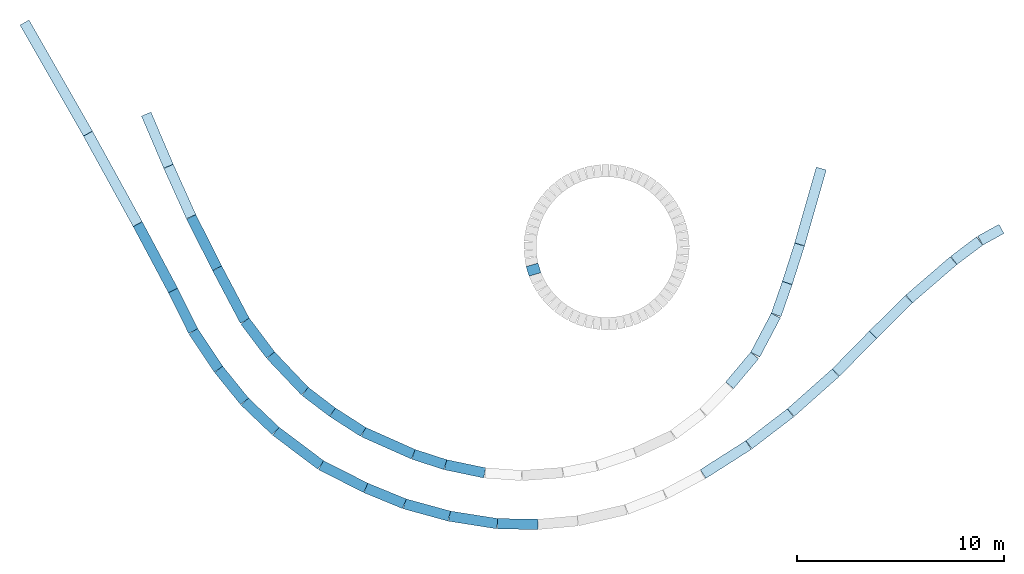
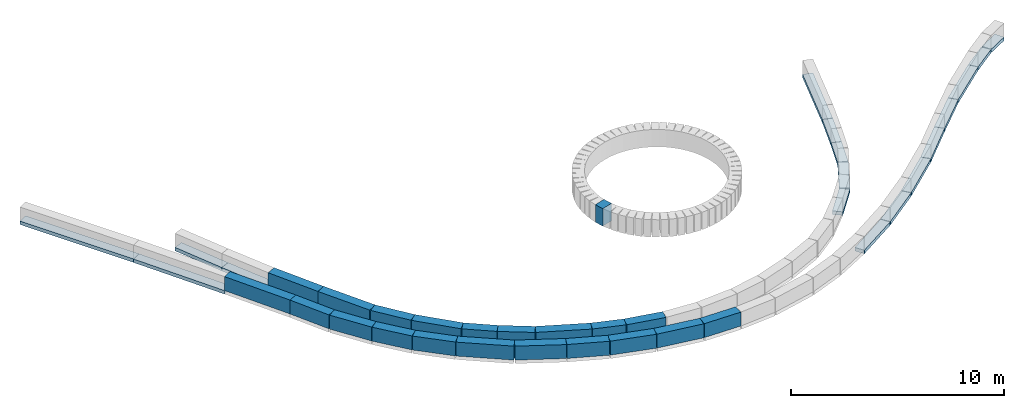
# One storey, part 2 of 3: 20 walls, 17 footings, 1 beam.
"""IFC2X3 building model written with IfcOpenShell, lengths in millimetres."""

from ifc_helpers import new_model, entity, si_unit, converted_unit, direction, origin, origin_with_axes, place, context, project, spatial, faceted_brep, element, save


model = new_model("IFC2X3")

# Units and contexts
model_context = context("Model", 3, precision=1e-05, world=origin(), true_north=direction((0.0, 1.0, 0.0)))
ifc_project = project(units=[si_unit("LENGTHUNIT", "METRE", prefix="MILLI"), si_unit("AREAUNIT", "SQUARE_METRE"), si_unit("VOLUMEUNIT", "CUBIC_METRE"), converted_unit("PLANEANGLEUNIT", "DEGREE", entity("IfcPlaneAngleMeasure", 0.01745), si_unit("PLANEANGLEUNIT", "RADIAN"), dimensions=[0, 0, 0, 0, 0, 0, 0]), si_unit("SOLIDANGLEUNIT", "STERADIAN"), si_unit("MASSUNIT", "GRAM"), si_unit("TIMEUNIT", "SECOND"), si_unit("THERMODYNAMICTEMPERATUREUNIT", "DEGREE_CELSIUS"), si_unit("LUMINOUSINTENSITYUNIT", "LUMEN")], contexts=[model_context])

# Site, building, storey
site_placement = place(None, origin_with_axes())
site = spatial("IfcSite", under=ifc_project, at=site_placement, Name="Default Site", CompositionType="ELEMENT")
building_placement = place(site_placement, origin_with_axes())
building = spatial("IfcBuilding", under=site, at=building_placement, Name="Default Building", CompositionType="ELEMENT")
storey_placement = place(building_placement, origin_with_axes())
storey = spatial("IfcBuildingStorey", under=building, at=storey_placement, Name="Fundação", CompositionType="ELEMENT", Elevation=0.0)

# Footings
footing_1_placement = place(storey_placement, origin_with_axes())
element("IfcFooting", 1, at=footing_1_placement, inside=storey, Name="IfcFooting - IfcFooting - Viga 23 (50x30)", context=model_context, shape_type="Brep", body=[
    faceted_brep([(-13324.97586549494, 5962.893249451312, -2350.000011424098), (-13324.97586549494, 5962.893249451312, -2150.000008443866), (-12248.72605742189, 3439.652087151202, -2150.000008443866), (-12248.72605742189, 3439.652087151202, -2350.000011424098), (-13784.88688410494, 5766.725184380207, -2150.000008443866), (-12708.6370760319, 3243.484022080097, -2150.000008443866), (-13784.88688410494, 5766.725184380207, -2350.000011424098), (-12708.6370760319, 3243.484022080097, -2350.000011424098)], [[[0, 1, 2]], [[0, 2, 3]], [[1, 4, 5]], [[1, 5, 2]], [[4, 6, 7]], [[4, 7, 5]], [[6, 0, 3]], [[6, 3, 7]], [[2, 5, 7]], [[2, 7, 3]], [[0, 6, 4]], [[0, 4, 1]]]),
])
footing_2_placement = place(storey_placement, origin_with_axes())
element("IfcFooting", 2, at=footing_2_placement, inside=storey, Name="IfcFooting - IfcFooting - Viga 42 (50x30)", context=model_context, shape_type="Brep", body=[
    faceted_brep([(17099.28588696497, -3993.023543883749, -2350.000011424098), (17099.28588696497, -3993.023543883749, -2150.000008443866), (16104.28883262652, -5876.832275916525, -2150.000008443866), (16104.28883262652, -5876.832275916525, -2350.000011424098), (16657.16762968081, -3759.503870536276, -2150.000008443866), (15662.17057534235, -5643.312602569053, -2150.000008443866), (16657.16762968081, -3759.503870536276, -2350.000011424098), (15662.17057534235, -5643.312602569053, -2350.000011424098)], [[[0, 1, 2]], [[0, 2, 3]], [[1, 4, 5]], [[1, 5, 2]], [[4, 6, 7]], [[4, 7, 5]], [[6, 0, 3]], [[6, 3, 7]], [[2, 5, 7]], [[2, 7, 3]], [[0, 6, 4]], [[0, 4, 1]]]),
])
footing_3_placement = place(storey_placement, origin_with_axes())
element("IfcFooting", 3, at=footing_3_placement, inside=storey, Name="IfcFooting - IfcFooting - Viga 43 (50x30)", context=model_context, shape_type="Brep", body=[
    faceted_brep([(17665.5232387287, -2385.671040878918, -2350.000011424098), (17665.5232387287, -2385.671040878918, -2150.000008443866), (17129.30943469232, -3924.070379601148, -2150.000008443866), (17129.30943469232, -3924.070379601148, -2350.000011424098), (17193.38142524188, -2221.104524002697, -2150.000008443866), (16657.1676212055, -3759.503862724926, -2150.000008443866), (17193.38142524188, -2221.104524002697, -2350.000011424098), (16657.1676212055, -3759.503862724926, -2350.000011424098)], [[[0, 1, 2]], [[0, 2, 3]], [[1, 4, 5]], [[1, 5, 2]], [[4, 6, 7]], [[4, 7, 5]], [[6, 0, 3]], [[6, 3, 7]], [[2, 5, 7]], [[2, 7, 3]], [[0, 6, 4]], [[0, 4, 1]]]),
])
footing_4_placement = place(storey_placement, origin_with_axes())
element("IfcFooting", 4, at=footing_4_placement, inside=storey, Name="IfcFooting - IfcFooting - Viga 24 (50x30)", context=model_context, shape_type="Brep", body=[
    faceted_brep([(-12248.72607851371, 3439.651990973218, -2350.000011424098), (-12248.72607851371, 3439.651990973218, -2150.000008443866), (-11156.33002782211, 1008.447314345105, -2150.000008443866), (-11156.33002782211, 1008.447314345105, -2350.000011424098), (-12704.8023130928, 3234.726573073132, -2150.000008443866), (-11612.4062624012, 803.5218964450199, -2150.000008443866), (-12704.8023130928, 3234.726573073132, -2350.000011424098), (-11612.4062624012, 803.5218964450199, -2350.000011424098)], [[[0, 1, 2]], [[0, 2, 3]], [[1, 4, 5]], [[1, 5, 2]], [[4, 6, 7]], [[4, 7, 5]], [[6, 0, 3]], [[6, 3, 7]], [[2, 5, 7]], [[2, 7, 3]], [[0, 6, 4]], [[0, 4, 1]]]),
])
footing_5_placement = place(storey_placement, origin_with_axes())
element("IfcFooting", 5, at=footing_5_placement, inside=storey, Name="IfcFooting - IfcFooting - Viga 44 (50x30)", context=model_context, shape_type="Brep", body=[
    faceted_brep([(18264.73520682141, -518.285660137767, -2350.000011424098), (18264.73520682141, -518.285660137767, -2150.000008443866), (17669.48346779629, -2373.83583008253, -2150.000008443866), (17669.48346779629, -2373.83583008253, -2350.000011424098), (17788.6331527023, -365.5543607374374, -2150.000008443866), (17193.38141367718, -2221.104530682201, -2150.000008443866), (17788.6331527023, -365.5543607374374, -2350.000011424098), (17193.38141367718, -2221.104530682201, -2350.000011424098)], [[[0, 1, 2]], [[0, 2, 3]], [[1, 4, 5]], [[1, 5, 2]], [[4, 6, 7]], [[4, 7, 5]], [[6, 0, 3]], [[6, 3, 7]], [[2, 5, 7]], [[2, 7, 3]], [[0, 6, 4]], [[0, 4, 1]]]),
])
footing_6_placement = place(storey_placement, origin_with_axes())
element("IfcFooting", 6, at=footing_6_placement, inside=storey, Name="IfcFooting - IfcFooting - Viga 41 (50x30)", context=model_context, shape_type="Brep", body=[
    faceted_brep([(16045.12085768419, -5964.792076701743, -2350.000011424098), (16045.12085768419, -5964.792076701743, -2150.000008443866), (14834.55195280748, -7406.836752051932, -2150.000008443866), (14834.55195280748, -7406.836752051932, -2350.000011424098), (15662.17055174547, -5643.312577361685, -2150.000008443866), (14451.60164686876, -7085.357252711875, -2150.000008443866), (15662.17055174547, -5643.312577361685, -2350.000011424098), (14451.60164686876, -7085.357252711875, -2350.000011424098)], [[[0, 1, 2]], [[0, 2, 3]], [[1, 4, 5]], [[1, 5, 2]], [[4, 6, 7]], [[4, 7, 5]], [[6, 0, 3]], [[6, 3, 7]], [[2, 5, 7]], [[2, 7, 3]], [[0, 6, 4]], [[0, 4, 1]]]),
])
footing_7_placement = place(storey_placement, origin_with_axes())
element("IfcFooting", 7, at=footing_7_placement, inside=storey, Name="IfcFooting - IfcFooting - Viga 45 (50x30)", context=model_context, shape_type="Brep", body=[
    faceted_brep([(19316.52881210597, 3164.051236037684, -2350.000011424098), (19316.52881210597, 3164.051236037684, -2150.000008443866), (18269.41488688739, -502.845703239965, -2150.000008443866), (18269.41488688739, -502.845703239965, -2350.000011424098), (18835.74704831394, 3301.342548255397, -2150.000008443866), (17788.63312309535, -365.5543910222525, -2150.000008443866), (18835.74704831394, 3301.342548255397, -2350.000011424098), (17788.63312309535, -365.5543910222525, -2350.000011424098)], [[[0, 1, 2]], [[0, 2, 3]], [[1, 4, 5]], [[1, 5, 2]], [[4, 6, 7]], [[4, 7, 5]], [[6, 0, 3]], [[6, 3, 7]], [[2, 5, 7]], [[2, 7, 3]], [[0, 6, 4]], [[0, 4, 1]]]),
])
footing_8_placement = place(storey_placement, origin_with_axes())
element("IfcFooting", 8, at=footing_8_placement, inside=storey, Name="IfcFooting - IfcFooting - Viga 87 (50x30)", context=model_context, shape_type="Brep", body=[
    faceted_brep([(15695.0404678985, -10342.18912879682, -1449.99999884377), (15695.0404678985, -10342.18912879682, -1249.999995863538), (13494.95268217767, -11745.31647125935, -1249.999995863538), (13494.95268217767, -11745.31647125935, -1449.99999884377), (15426.18394247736, -9920.625175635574, -1249.999995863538), (13226.09615675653, -11323.75251809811, -1249.999995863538), (15426.18394247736, -9920.625175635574, -1449.99999884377), (13226.09615675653, -11323.75251809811, -1449.99999884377)], [[[0, 1, 2]], [[0, 2, 3]], [[1, 4, 5]], [[1, 5, 2]], [[4, 6, 7]], [[4, 7, 5]], [[6, 0, 3]], [[6, 3, 7]], [[2, 5, 7]], [[2, 7, 3]], [[0, 6, 4]], [[0, 4, 1]]]),
])
footing_9_placement = place(storey_placement, origin_with_axes())
element("IfcFooting", 9, at=footing_9_placement, inside=storey, Name="IfcFooting - IfcFooting - Viga 94 (50x30)", context=model_context, shape_type="Brep", body=[
    faceted_brep([(27906.57746489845, 95.52944373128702, -1449.99999884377), (27906.57746489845, 95.52944373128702, -1249.999995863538), (26879.4081776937, -469.1190727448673, -1249.999995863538), (26879.4081776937, -469.1190727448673, -1449.99999884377), (27665.71455891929, 533.6904517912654, -1249.999995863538), (26638.54527171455, -30.95806468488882, -1249.999995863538), (27665.71455891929, 533.6904517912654, -1449.99999884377), (26638.54527171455, -30.95806468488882, -1449.99999884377)], [[[0, 1, 2]], [[0, 2, 3]], [[1, 4, 5]], [[1, 5, 2]], [[4, 6, 7]], [[4, 7, 5]], [[6, 0, 3]], [[6, 3, 7]], [[2, 5, 7]], [[2, 7, 3]], [[0, 6, 4]], [[0, 4, 1]]]),
])
footing_10_placement = place(storey_placement, origin_with_axes())
element("IfcFooting", 10, at=footing_10_placement, inside=storey, Name="IfcFooting - IfcFooting - Viga 91 (50x30)", context=model_context, shape_type="Brep", body=[
    faceted_brep([(23484.82242084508, -3260.998741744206, -1449.99999884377), (23484.82242084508, -3260.998741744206, -1249.999995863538), (21750.70050216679, -4978.207246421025, -1249.999995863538), (21750.70050216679, -4978.207246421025, -1449.99999884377), (23133.00588584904, -2905.717031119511, -1249.999995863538), (21398.88396717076, -4622.92553579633, -1249.999995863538), (23133.00588584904, -2905.717031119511, -1449.99999884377), (21398.88396717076, -4622.92553579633, -1449.99999884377)], [[[0, 1, 2]], [[0, 2, 3]], [[1, 4, 5]], [[1, 5, 2]], [[4, 6, 7]], [[4, 7, 5]], [[6, 0, 3]], [[6, 3, 7]], [[2, 5, 7]], [[2, 7, 3]], [[0, 6, 4]], [[0, 4, 1]]]),
])
footing_11_placement = place(storey_placement, origin_with_axes())
element("IfcFooting", 11, at=footing_11_placement, inside=storey, Name="IfcFooting - IfcFooting - Viga 92 (50x30)", context=model_context, shape_type="Brep", body=[
    faceted_brep([(25631.49879965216, -1409.217279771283, -1449.99999884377), (25631.49879965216, -1409.217279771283, -1249.999995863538), (23484.82243809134, -3260.998767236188, -1249.999995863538), (23484.82243809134, -3260.998767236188, -1449.99999884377), (25304.90784439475, -1030.616801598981, -1249.999995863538), (23158.23148283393, -2882.398289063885, -1249.999995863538), (25304.90784439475, -1030.616801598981, -1449.99999884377), (23158.23148283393, -2882.398289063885, -1449.99999884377)], [[[0, 1, 2]], [[0, 2, 3]], [[1, 4, 5]], [[1, 5, 2]], [[4, 6, 7]], [[4, 7, 5]], [[6, 0, 3]], [[6, 3, 7]], [[2, 5, 7]], [[2, 7, 3]], [[0, 6, 4]], [[0, 4, 1]]]),
])
footing_12_placement = place(storey_placement, origin_with_axes())
element("IfcFooting", 12, at=footing_12_placement, inside=storey, Name="IfcFooting - IfcFooting - Viga 88 (50x30)", context=model_context, shape_type="Brep", body=[
    faceted_brep([(17740.04719172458, -8774.909779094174, -1449.99999884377), (17740.04719172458, -8774.909779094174, -1249.999995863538), (15730.62208806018, -10317.25780632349, -1249.999995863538), (15730.62208806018, -10317.25780632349, -1449.99999884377), (17435.60901795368, -8378.277107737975, -1249.999995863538), (15426.18391428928, -9920.625134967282, -1249.999995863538), (17435.60901795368, -8378.277107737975, -1449.99999884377), (15426.18391428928, -9920.625134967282, -1449.99999884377)], [[[0, 1, 2]], [[0, 2, 3]], [[1, 4, 5]], [[1, 5, 2]], [[4, 6, 7]], [[4, 7, 5]], [[6, 0, 3]], [[6, 3, 7]], [[2, 5, 7]], [[2, 7, 3]], [[0, 6, 4]], [[0, 4, 1]]]),
])
footing_13_placement = place(storey_placement, origin_with_axes())
element("IfcFooting", 13, at=footing_13_placement, inside=storey, Name="IfcFooting - IfcFooting - Viga 89 (50x30)", context=model_context, shape_type="Brep", body=[
    faceted_brep([(19936.10709176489, -6826.469373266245, -1449.99999884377), (19936.10709176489, -6826.469373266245, -1249.999995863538), (17767.60988698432, -8752.142679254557, -1249.999995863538), (17767.60988698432, -8752.142679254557, -1449.99999884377), (19604.10624013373, -6452.603828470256, -1249.999995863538), (17435.60903535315, -8378.277134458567, -1249.999995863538), (19604.10624013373, -6452.603828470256, -1449.99999884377), (17435.60903535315, -8378.277134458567, -1449.99999884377)], [[[0, 1, 2]], [[0, 2, 3]], [[1, 4, 5]], [[1, 5, 2]], [[4, 6, 7]], [[4, 7, 5]], [[6, 0, 3]], [[6, 3, 7]], [[2, 5, 7]], [[2, 7, 3]], [[0, 6, 4]], [[0, 4, 1]]]),
])
footing_14_placement = place(storey_placement, origin_with_axes())
element("IfcFooting", 14, at=footing_14_placement, inside=storey, Name="IfcFooting - IfcFooting - Viga 90 (50x30)", context=model_context, shape_type="Brep", body=[
    faceted_brep([(21750.70050868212, -4978.207267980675, -1449.99999884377), (21750.70050868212, -4978.207267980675, -1249.999995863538), (19961.05471762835, -6802.729226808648, -1249.999995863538), (19961.05471762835, -6802.729226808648, -1449.99999884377), (21393.75201377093, -4628.081895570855, -1249.999995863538), (19604.10622271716, -6452.603854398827, -1249.999995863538), (21393.75201377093, -4628.081895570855, -1449.99999884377), (19604.10622271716, -6452.603854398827, -1449.99999884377)], [[[0, 1, 2]], [[0, 2, 3]], [[1, 4, 5]], [[1, 5, 2]], [[4, 6, 7]], [[4, 7, 5]], [[6, 0, 3]], [[6, 3, 7]], [[2, 5, 7]], [[2, 7, 3]], [[0, 6, 4]], [[0, 4, 1]]]),
])
footing_15_placement = place(storey_placement, origin_with_axes())
element("IfcFooting", 15, at=footing_15_placement, inside=storey, Name="IfcFooting - IfcFooting - Viga 93 (50x30)", context=model_context, shape_type="Brep", body=[
    faceted_brep([(26879.40817775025, -469.1190613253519, -1449.99999884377), (26879.40817775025, -469.1190613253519, -1249.999995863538), (25631.49884046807, -1409.217257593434, -1249.999995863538), (25631.49884046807, -1409.217257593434, -1449.99999884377), (26578.55555118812, -69.75998411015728, -1249.999995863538), (25330.64621390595, -1009.858180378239, -1249.999995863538), (26578.55555118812, -69.75998411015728, -1449.99999884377), (25330.64621390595, -1009.858180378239, -1449.99999884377)], [[[0, 1, 2]], [[0, 2, 3]], [[1, 4, 5]], [[1, 5, 2]], [[4, 6, 7]], [[4, 7, 5]], [[6, 0, 3]], [[6, 3, 7]], [[2, 5, 7]], [[2, 7, 3]], [[0, 6, 4]], [[0, 4, 1]]]),
])
footing_16_placement = place(storey_placement, origin_with_axes())
element("IfcFooting", 16, at=footing_16_placement, inside=storey, Name="IfcFooting - IfcFooting - Viga 71 (50x30)", context=model_context, shape_type="Brep", body=[
    faceted_brep([(-16151.50099118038, 5037.634385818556, -1449.99999884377), (-16151.50099118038, 5037.634385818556, -1249.999995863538), (-13747.62921650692, 665.5051839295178, -1249.999995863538), (-13747.62921650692, 665.5051839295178, -1449.99999884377), (-16589.64281399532, 4796.736491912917, -1249.999995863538), (-14185.77103932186, 424.6072900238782, -1249.999995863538), (-16589.64281399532, 4796.736491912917, -1449.99999884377), (-14185.77103932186, 424.6072900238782, -1449.99999884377)], [[[0, 1, 2]], [[0, 2, 3]], [[1, 4, 5]], [[1, 5, 2]], [[4, 6, 7]], [[4, 7, 5]], [[6, 0, 3]], [[6, 3, 7]], [[2, 5, 7]], [[2, 7, 3]], [[0, 6, 4]], [[0, 4, 1]]]),
])
footing_17_placement = place(storey_placement, origin_with_axes())
element("IfcFooting", 17, at=footing_17_placement, inside=storey, Name="IfcFooting - IfcFooting - Viga 70 (50x30)", context=model_context, shape_type="Brep", body=[
    faceted_brep([(-19222.28365279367, 10412.63987599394, -1449.99999884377), (-19222.28365279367, 10412.63987599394, -1249.999995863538), (-16155.50129748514, 5044.771214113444, -1249.999995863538), (-16155.50129748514, 5044.771214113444, -1449.99999884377), (-19656.42516947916, 10164.60516034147, -1249.999995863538), (-16589.64281417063, 4796.736498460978, -1249.999995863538), (-19656.42516947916, 10164.60516034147, -1449.99999884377), (-16589.64281417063, 4796.736498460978, -1449.99999884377)], [[[0, 1, 2]], [[0, 2, 3]], [[1, 4, 5]], [[1, 5, 2]], [[4, 6, 7]], [[4, 7, 5]], [[6, 0, 3]], [[6, 3, 7]], [[2, 5, 7]], [[2, 7, 3]], [[0, 6, 4]], [[0, 4, 1]]]),
])

# Beam
beam_placement = place(storey_placement, origin_with_axes())
element("IfcBeam", 18, at=beam_placement, inside=storey, Name="IfcBeam - IfcBeam - Viga 118 (60x150)", context=model_context, shape_type="Brep", body=[
    faceted_brep([(5383.692389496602, -1336.855476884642, -2800.00001192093), (5383.692389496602, -1336.855476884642, -1800.00001192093), (5523.015996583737, -1796.846782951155, -1800.00001192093), (5523.015996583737, -1796.846782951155, -2800.00001192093), (4809.45428288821, -1510.782515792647, -1800.00001192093), (4948.777889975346, -1970.773821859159, -1800.00001192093), (4809.45428288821, -1510.782515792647, -2800.00001192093), (4948.777889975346, -1970.773821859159, -2800.00001192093)], [[[0, 1, 2]], [[0, 2, 3]], [[1, 4, 5]], [[1, 5, 2]], [[4, 6, 7]], [[4, 7, 5]], [[6, 0, 3]], [[6, 3, 7]], [[2, 5, 7]], [[2, 7, 3]], [[0, 6, 4]], [[0, 4, 1]]]),
])

# Walls
wall_1_placement = place(storey_placement, origin_with_axes())
element("IfcWallStandardCase", 19, at=wall_1_placement, inside=storey, Name="IfcWallStandardCase - IfcWallStandardCase - C28 (50)", context=model_context, shape_type="Brep", body=[
    faceted_brep([(-9906.074472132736, -1473.201153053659, -1350.000013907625), (-8564.074494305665, -4015.201089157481, -1350.000013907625), (-8564.074494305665, -4015.201089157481, -2150.000025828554), (-9906.074472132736, -1473.201153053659, -2150.000025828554), (-9006.238945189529, -4248.633262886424, -1350.000013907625), (-9006.238945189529, -4248.633262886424, -2150.000025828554), (-10348.2389230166, -1706.633326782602, -1350.000013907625), (-10348.2389230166, -1706.633326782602, -2150.000025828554)], [[[0, 1, 2]], [[0, 2, 3]], [[1, 4, 5]], [[1, 5, 2]], [[4, 6, 7]], [[4, 7, 5]], [[6, 0, 3]], [[6, 3, 7]], [[2, 5, 7]], [[2, 7, 3]], [[0, 6, 4]], [[0, 4, 1]]]),
])
wall_2_placement = place(storey_placement, origin_with_axes())
element("IfcWallStandardCase", 20, at=wall_2_placement, inside=storey, Name="IfcWallStandardCase - IfcWallStandardCase - C27 (50)", context=model_context, shape_type="Brep", body=[
    faceted_brep([(-11158.32834415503, 1012.413708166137, -1350.000013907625), (-9904.3283360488, -1476.586254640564, -1350.000013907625), (-9904.3283360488, -1476.586254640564, -2150.000025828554), (-11158.32834415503, 1012.413708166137, -2150.000025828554), (-10350.85814170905, -1701.555522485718, -1350.000013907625), (-10350.85814170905, -1701.555522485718, -2150.000025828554), (-11604.85814981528, 787.4444403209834, -1350.000013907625), (-11604.85814981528, 787.4444403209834, -2150.000025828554)], [[[0, 1, 2]], [[0, 2, 3]], [[1, 4, 5]], [[1, 5, 2]], [[4, 6, 7]], [[4, 7, 5]], [[6, 0, 3]], [[6, 3, 7]], [[2, 5, 7]], [[2, 7, 3]], [[0, 6, 4]], [[0, 4, 1]]]),
])
wall_3_placement = place(storey_placement, origin_with_axes())
element("IfcWallStandardCase", 21, at=wall_3_placement, inside=storey, Name="IfcWallStandardCase - IfcWallStandardCase - C29 (50)", context=model_context, shape_type="Brep", body=[
    faceted_brep([(-8581.11553632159, -3988.340635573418, -1350.000013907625), (-7345.115534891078, -5631.340642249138, -1350.000013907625), (-7345.115534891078, -5631.340642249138, -2150.000025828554), (-8581.11553632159, -3988.340635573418, -2150.000025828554), (-7744.677357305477, -5931.924004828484, -1350.000013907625), (-7744.677357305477, -5931.924004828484, -2150.000025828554), (-8980.67735873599, -4288.923998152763, -1350.000013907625), (-8980.67735873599, -4288.923998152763, -2150.000025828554)], [[[0, 1, 2]], [[0, 2, 3]], [[1, 4, 5]], [[1, 5, 2]], [[4, 6, 7]], [[4, 7, 5]], [[6, 0, 3]], [[6, 3, 7]], [[2, 5, 7]], [[2, 7, 3]], [[0, 6, 4]], [[0, 4, 1]]]),
])
wall_4_placement = place(storey_placement, origin_with_axes())
element("IfcWallStandardCase", 22, at=wall_4_placement, inside=storey, Name="IfcWallStandardCase - IfcWallStandardCase - C30 (50)", context=model_context, shape_type="Brep", body=[
    faceted_brep([(-7359.913456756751, -5613.85245548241, -1350.000013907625), (-5700.913417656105, -7360.852434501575, -1350.000013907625), (-5700.913417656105, -7360.852434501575, -2150.000025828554), (-7359.913456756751, -5613.85245548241, -2150.000025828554), (-6063.480484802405, -7705.156280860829, -1350.000013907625), (-6063.480484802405, -7705.156280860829, -2150.000025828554), (-7722.480523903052, -5958.156301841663, -1350.000013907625), (-7722.480523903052, -5958.156301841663, -2150.000025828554)], [[[0, 1, 2]], [[0, 2, 3]], [[1, 4, 5]], [[1, 5, 2]], [[4, 6, 7]], [[4, 7, 5]], [[6, 0, 3]], [[6, 3, 7]], [[2, 5, 7]], [[2, 7, 3]], [[0, 6, 4]], [[0, 4, 1]]]),
])
wall_5_placement = place(storey_placement, origin_with_axes())
element("IfcWallStandardCase", 23, at=wall_5_placement, inside=storey, Name="IfcWallStandardCase - IfcWallStandardCase - C31 (50)", context=model_context, shape_type="Brep", body=[
    faceted_brep([(-5724.865679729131, -7339.385586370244, -1350.000013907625), (-4400.865678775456, -8346.385585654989, -1350.000013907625), (-4400.865678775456, -8346.385585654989, -2150.000025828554), (-5724.865679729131, -7339.385586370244, -2150.000025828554), (-4703.552131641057, -8744.356589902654, -1350.000013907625), (-4703.552131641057, -8744.356589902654, -2150.000025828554), (-6027.552132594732, -7737.35659061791, -1350.000013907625), (-6027.552132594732, -7737.35659061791, -2150.000025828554)], [[[0, 1, 2]], [[0, 2, 3]], [[1, 4, 5]], [[1, 5, 2]], [[4, 6, 7]], [[4, 7, 5]], [[6, 0, 3]], [[6, 3, 7]], [[2, 5, 7]], [[2, 7, 3]], [[0, 6, 4]], [[0, 4, 1]]]),
])
wall_6_placement = place(storey_placement, origin_with_axes())
element("IfcWallStandardCase", 24, at=wall_6_placement, inside=storey, Name="IfcWallStandardCase - IfcWallStandardCase - C32 (50)", context=model_context, shape_type="Brep", body=[
    faceted_brep([(-4413.869023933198, -8337.28672997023, -1350.000013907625), (-2929.86899675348, -9290.286739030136, -1350.000013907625), (-2929.86899675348, -9290.286739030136, -2150.000025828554), (-4413.869023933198, -8337.28672997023, -2150.000025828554), (-3200.047135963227, -9711.00487247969, -1350.000013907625), (-3200.047135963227, -9711.00487247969, -2150.000025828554), (-4684.047163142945, -8758.004863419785, -1350.000013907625), (-4684.047163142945, -8758.004863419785, -2150.000025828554)], [[[0, 1, 2]], [[0, 2, 3]], [[1, 4, 5]], [[1, 5, 2]], [[4, 6, 7]], [[4, 7, 5]], [[6, 0, 3]], [[6, 3, 7]], [[2, 5, 7]], [[2, 7, 3]], [[0, 6, 4]], [[0, 4, 1]]]),
])
wall_7_placement = place(storey_placement, origin_with_axes())
element("IfcWallStandardCase", 25, at=wall_7_placement, inside=storey, Name="IfcWallStandardCase - IfcWallStandardCase - C33 (50)", context=model_context, shape_type="Brep", body=[
    faceted_brep([(-2956.565431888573, -9275.877156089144, -1350.000013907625), (-538.5653298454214, -10352.87717802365, -1350.000013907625), (-538.5653298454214, -10352.87717802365, -2150.000025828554), (-2956.565431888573, -9275.877156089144, -2150.000025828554), (-742.0025389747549, -10809.6192262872, -1350.000013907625), (-742.0025389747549, -10809.6192262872, -2150.000025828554), (-3160.002641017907, -9732.619204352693, -1350.000013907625), (-3160.002641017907, -9732.619204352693, -2150.000025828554)], [[[0, 1, 2]], [[0, 2, 3]], [[1, 4, 5]], [[1, 5, 2]], [[4, 6, 7]], [[4, 7, 5]], [[6, 0, 3]], [[6, 3, 7]], [[2, 5, 7]], [[2, 7, 3]], [[0, 6, 4]], [[0, 4, 1]]]),
])
wall_8_placement = place(storey_placement, origin_with_axes())
element("IfcWallStandardCase", 26, at=wall_8_placement, inside=storey, Name="IfcWallStandardCase - IfcWallStandardCase - C34 (50)", context=model_context, shape_type="Brep", body=[
    faceted_brep([(-558.2938286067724, -10345.31175270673, -1350.000013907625), (978.7061718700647, -10843.31175796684, -1350.000013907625), (978.7061718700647, -10843.31175796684, -2150.000025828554), (-558.2938286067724, -10345.31175270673, -2150.000025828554), (824.5900777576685, -11318.96733418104, -1350.000013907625), (824.5900777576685, -11318.96733418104, -2150.000025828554), (-712.4099227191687, -10820.96732892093, -1350.000013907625), (-712.4099227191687, -10820.96732892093, -2150.000025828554)], [[[0, 1, 2]], [[0, 2, 3]], [[1, 4, 5]], [[1, 5, 2]], [[4, 6, 7]], [[4, 7, 5]], [[6, 0, 3]], [[6, 3, 7]], [[2, 5, 7]], [[2, 7, 3]], [[0, 6, 4]], [[0, 4, 1]]]),
])
wall_9_placement = place(storey_placement, origin_with_axes())
element("IfcWallStandardCase", 27, at=wall_9_placement, inside=storey, Name="IfcWallStandardCase - IfcWallStandardCase - C35 (50)", context=model_context, shape_type="Brep", body=[
    faceted_brep([(958.0070744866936, -10837.81058589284, -1350.000013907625), (2856.007076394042, -11234.81057087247, -1350.000013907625), (2856.007076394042, -11234.81057087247, -2150.000025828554), (958.0070744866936, -10837.81058589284, -2150.000025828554), (2753.638721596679, -11724.21909371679, -1350.000013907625), (2753.638721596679, -11724.21909371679, -2150.000025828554), (855.6387196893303, -11327.21910873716, -1350.000013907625), (855.6387196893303, -11327.21910873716, -2150.000025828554)], [[[0, 1, 2]], [[0, 2, 3]], [[1, 4, 5]], [[1, 5, 2]], [[4, 6, 7]], [[4, 7, 5]], [[6, 0, 3]], [[6, 3, 7]], [[2, 5, 7]], [[2, 7, 3]], [[0, 6, 4]], [[0, 4, 1]]]),
])
wall_10_placement = place(storey_placement, origin_with_axes())
element("IfcWallStandardCase", 28, at=wall_10_placement, inside=storey, Name="IfcWallStandardCase - IfcWallStandardCase - C77 (50)", context=model_context, shape_type="Brep", body=[
    faceted_brep([(-9861.472640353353, -6314.757349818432, -450.0000043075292), (-8605.472657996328, -7866.757335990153, -450.0000043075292), (-8605.472657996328, -7866.757335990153, -1250.000016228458), (-9861.472640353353, -6314.757349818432, -1250.000016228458), (-8994.141731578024, -8181.298854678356, -450.0000043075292), (-8994.141731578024, -8181.298854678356, -1250.000016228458), (-10250.14171393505, -6629.298868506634, -450.0000043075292), (-10250.14171393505, -6629.298868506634, -1250.000016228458)], [[[0, 1, 2]], [[0, 2, 3]], [[1, 4, 5]], [[1, 5, 2]], [[4, 6, 7]], [[4, 7, 5]], [[6, 0, 3]], [[6, 3, 7]], [[2, 5, 7]], [[2, 7, 3]], [[0, 6, 4]], [[0, 4, 1]]]),
])
wall_11_placement = place(storey_placement, origin_with_axes())
element("IfcWallStandardCase", 29, at=wall_11_placement, inside=storey, Name="IfcWallStandardCase - IfcWallStandardCase - C83 (50)", context=model_context, shape_type="Brep", body=[
    faceted_brep([(1137.23915730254, -13321.01929737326, -450.0000043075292), (3456.239163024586, -13687.01928658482, -450.0000043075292), (3456.239163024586, -13687.01928658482, -1250.000016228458), (1137.23915730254, -13321.01929737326, -1250.000016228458), (3378.290592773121, -14180.90594364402, -450.0000043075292), (3378.290592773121, -14180.90594364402, -1250.000016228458), (1059.290587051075, -13814.90595443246, -450.0000043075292), (1059.290587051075, -13814.90595443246, -1250.000016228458)], [[[0, 1, 2]], [[0, 2, 3]], [[1, 4, 5]], [[1, 5, 2]], [[4, 6, 7]], [[4, 7, 5]], [[6, 0, 3]], [[6, 3, 7]], [[2, 5, 7]], [[2, 7, 3]], [[0, 6, 4]], [[0, 4, 1]]]),
])
wall_12_placement = place(storey_placement, origin_with_axes())
element("IfcWallStandardCase", 30, at=wall_12_placement, inside=storey, Name="IfcWallStandardCase - IfcWallStandardCase - C79 (50)", context=model_context, shape_type="Brep", body=[
    faceted_brep([(-7141.717377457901, -9261.741300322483, -450.0000043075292), (-4962.717357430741, -10900.74135849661, -450.0000043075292), (-4962.717357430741, -10900.74135849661, -1250.000016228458), (-7141.717377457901, -9261.741300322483, -1250.000016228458), (-5263.274613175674, -11300.32291004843, -450.0000043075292), (-5263.274613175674, -11300.32291004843, -1250.000016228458), (-7442.274633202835, -9661.322851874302, -450.0000043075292), (-7442.274633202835, -9661.322851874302, -1250.000016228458)], [[[0, 1, 2]], [[0, 2, 3]], [[1, 4, 5]], [[1, 5, 2]], [[4, 6, 7]], [[4, 7, 5]], [[6, 0, 3]], [[6, 3, 7]], [[2, 5, 7]], [[2, 7, 3]], [[0, 6, 4]], [[0, 4, 1]]]),
])
wall_13_placement = place(storey_placement, origin_with_axes())
element("IfcWallStandardCase", 31, at=wall_13_placement, inside=storey, Name="IfcWallStandardCase - IfcWallStandardCase - C82 (50)", context=model_context, shape_type="Brep", body=[
    faceted_brep([(-1003.037556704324, -12732.69754103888, -450.0000043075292), (1158.962503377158, -13325.69756559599, -450.0000043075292), (1158.962503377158, -13325.69756559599, -1250.000016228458), (-1003.037556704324, -12732.69754103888, -1250.000016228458), (1026.705637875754, -13807.88856200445, -450.0000043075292), (1026.705637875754, -13807.88856200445, -1250.000016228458), (-1135.294422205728, -13214.88853744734, -450.0000043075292), (-1135.294422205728, -13214.88853744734, -1250.000016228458)], [[[0, 1, 2]], [[0, 2, 3]], [[1, 4, 5]], [[1, 5, 2]], [[4, 6, 7]], [[4, 7, 5]], [[6, 0, 3]], [[6, 3, 7]], [[2, 5, 7]], [[2, 7, 3]], [[0, 6, 4]], [[0, 4, 1]]]),
])
wall_14_placement = place(storey_placement, origin_with_axes())
element("IfcWallStandardCase", 32, at=wall_14_placement, inside=storey, Name="IfcWallStandardCase - IfcWallStandardCase - C75 (50)", context=model_context, shape_type="Brep", body=[
    faceted_brep([(-12033.72854632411, -2550.786874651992, -450.0000043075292), (-11057.72853535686, -4520.786843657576, -450.0000043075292), (-11057.72853535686, -4520.786843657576, -1250.000016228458), (-12033.72854632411, -2550.786874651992, -1250.000016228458), (-11505.75787467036, -4742.754600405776, -450.0000043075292), (-11505.75787467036, -4742.754600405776, -1250.000016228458), (-12481.75788563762, -2772.754631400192, -450.0000043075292), (-12481.75788563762, -2772.754631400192, -1250.000016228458)], [[[0, 1, 2]], [[0, 2, 3]], [[1, 4, 5]], [[1, 5, 2]], [[4, 6, 7]], [[4, 7, 5]], [[6, 0, 3]], [[6, 3, 7]], [[2, 5, 7]], [[2, 7, 3]], [[0, 6, 4]], [[0, 4, 1]]]),
])
wall_15_placement = place(storey_placement, origin_with_axes())
element("IfcWallStandardCase", 33, at=wall_15_placement, inside=storey, Name="IfcWallStandardCase - IfcWallStandardCase - C74 (50)", context=model_context, shape_type="Brep", body=[
    faceted_brep([(-13745.43771418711, 661.4837102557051, -450.0000043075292), (-12036.43772277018, -2545.516306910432, -450.0000043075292), (-12036.43772277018, -2545.516306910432, -1250.000016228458), (-13745.43771418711, 661.4837102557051, -1250.000016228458), (-12477.69412669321, -2780.660445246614, -450.0000043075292), (-12477.69412669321, -2780.660445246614, -1250.000016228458), (-14186.69411811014, 426.3395719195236, -450.0000043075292), (-14186.69411811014, 426.3395719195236, -1250.000016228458)], [[[0, 1, 2]], [[0, 2, 3]], [[1, 4, 5]], [[1, 5, 2]], [[4, 6, 7]], [[4, 7, 5]], [[6, 0, 3]], [[6, 3, 7]], [[2, 5, 7]], [[2, 7, 3]], [[0, 6, 4]], [[0, 4, 1]]]),
])
wall_16_placement = place(storey_placement, origin_with_axes())
element("IfcWallStandardCase", 34, at=wall_16_placement, inside=storey, Name="IfcWallStandardCase - IfcWallStandardCase - C76 (50)", context=model_context, shape_type="Brep", body=[
    faceted_brep([(-11070.50225854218, -4498.675907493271, -450.0000043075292), (-9850.502259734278, -6329.675877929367, -450.0000043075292), (-9850.502259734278, -6329.675877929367, -1250.000016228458), (-11070.50225854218, -4498.675907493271, -1250.000016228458), (-10266.59730792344, -6606.921041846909, -450.0000043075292), (-10266.59730792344, -6606.921041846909, -1250.000016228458), (-11486.59730673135, -4775.921071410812, -450.0000043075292), (-11486.59730673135, -4775.921071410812, -1250.000016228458)], [[[0, 1, 2]], [[0, 2, 3]], [[1, 4, 5]], [[1, 5, 2]], [[4, 6, 7]], [[4, 7, 5]], [[6, 0, 3]], [[6, 3, 7]], [[2, 5, 7]], [[2, 7, 3]], [[0, 6, 4]], [[0, 4, 1]]]),
])
wall_17_placement = place(storey_placement, origin_with_axes())
element("IfcWallStandardCase", 35, at=wall_17_placement, inside=storey, Name="IfcWallStandardCase - IfcWallStandardCase - C84 (50)", context=model_context, shape_type="Brep", body=[
    faceted_brep([(3428.645191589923, -13684.60610903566, -450.0000043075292), (5380.645213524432, -13719.60609055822, -450.0000043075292), (5380.645213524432, -13719.60609055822, -1250.000016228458), (3428.645191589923, -13684.60610903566, -1250.000016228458), (5371.68150941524, -14219.5257285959, -450.0000043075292), (5371.68150941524, -14219.5257285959, -1250.000016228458), (3419.681487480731, -14184.52574707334, -450.0000043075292), (3419.681487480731, -14184.52574707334, -1250.000016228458)], [[[0, 1, 2]], [[0, 2, 3]], [[1, 4, 5]], [[1, 5, 2]], [[4, 6, 7]], [[4, 7, 5]], [[6, 0, 3]], [[6, 3, 7]], [[2, 5, 7]], [[2, 7, 3]], [[0, 6, 4]], [[0, 4, 1]]]),
])
wall_18_placement = place(storey_placement, origin_with_axes())
element("IfcWallStandardCase", 36, at=wall_18_placement, inside=storey, Name="IfcWallStandardCase - IfcWallStandardCase - C78 (50)", context=model_context, shape_type="Brep", body=[
    faceted_brep([(-8622.93934478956, -7847.813008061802, -450.0000043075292), (-7123.939331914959, -9276.812968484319, -450.0000043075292), (-7123.939331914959, -9276.812968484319, -1250.000016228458), (-8622.93934478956, -7847.813008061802, -1250.000016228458), (-7468.941685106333, -9638.71538423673, -450.0000043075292), (-7468.941685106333, -9638.71538423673, -1250.000016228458), (-8967.941697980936, -8209.715423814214, -450.0000043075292), (-8967.941697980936, -8209.715423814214, -1250.000016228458)], [[[0, 1, 2]], [[0, 2, 3]], [[1, 4, 5]], [[1, 5, 2]], [[4, 6, 7]], [[4, 7, 5]], [[6, 0, 3]], [[6, 3, 7]], [[2, 5, 7]], [[2, 7, 3]], [[0, 6, 4]], [[0, 4, 1]]]),
])
wall_19_placement = place(storey_placement, origin_with_axes())
element("IfcWallStandardCase", 37, at=wall_19_placement, inside=storey, Name="IfcWallStandardCase - IfcWallStandardCase - C80 (50)", context=model_context, shape_type="Brep", body=[
    faceted_brep([(-4992.377571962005, -10882.25290975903, -450.0000043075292), (-2830.377571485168, -11980.25289974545, -450.0000043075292), (-2830.377571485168, -11980.25289974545, -1250.000016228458), (-4992.377571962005, -10882.25290975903, -1250.000016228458), (-3056.78432454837, -12426.05552873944, -450.0000043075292), (-3056.78432454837, -12426.05552873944, -1250.000016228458), (-5218.784325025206, -11328.05553875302, -450.0000043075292), (-5218.784325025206, -11328.05553875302, -1250.000016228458)], [[[0, 1, 2]], [[0, 2, 3]], [[1, 4, 5]], [[1, 5, 2]], [[4, 6, 7]], [[4, 7, 5]], [[6, 0, 3]], [[6, 3, 7]], [[2, 5, 7]], [[2, 7, 3]], [[0, 6, 4]], [[0, 4, 1]]]),
])
wall_20_placement = place(storey_placement, origin_with_axes())
element("IfcWallStandardCase", 38, at=wall_20_placement, inside=storey, Name="IfcWallStandardCase - IfcWallStandardCase - C81 (50)", context=model_context, shape_type="Brep", body=[
    faceted_brep([(-2844.870110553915, -11973.6055015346, -450.0000043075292), (-979.870160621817, -12740.6054912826, -450.0000043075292), (-979.870160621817, -12740.6054912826, -1250.000016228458), (-2844.870110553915, -11973.6055015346, -1250.000016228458), (-1170.045515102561, -13203.02664029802, -450.0000043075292), (-1170.045515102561, -13203.02664029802, -1250.000016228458), (-3035.045465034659, -12436.02665055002, -450.0000043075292), (-3035.045465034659, -12436.02665055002, -1250.000016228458)], [[[0, 1, 2]], [[0, 2, 3]], [[1, 4, 5]], [[1, 5, 2]], [[4, 6, 7]], [[4, 7, 5]], [[6, 0, 3]], [[6, 3, 7]], [[2, 5, 7]], [[2, 7, 3]], [[0, 6, 4]], [[0, 4, 1]]]),
])

save(model, "model.ifc")
